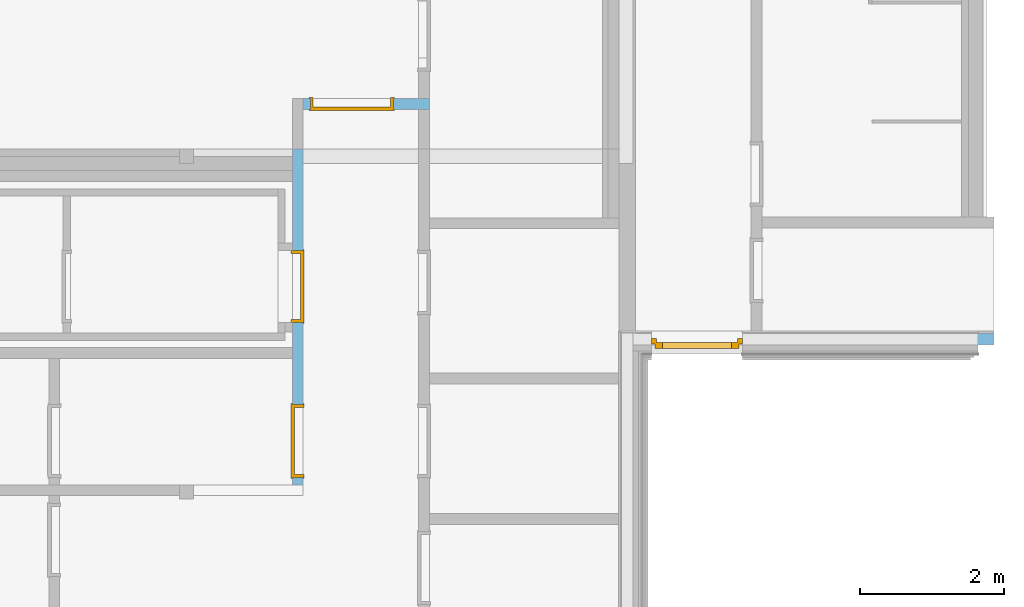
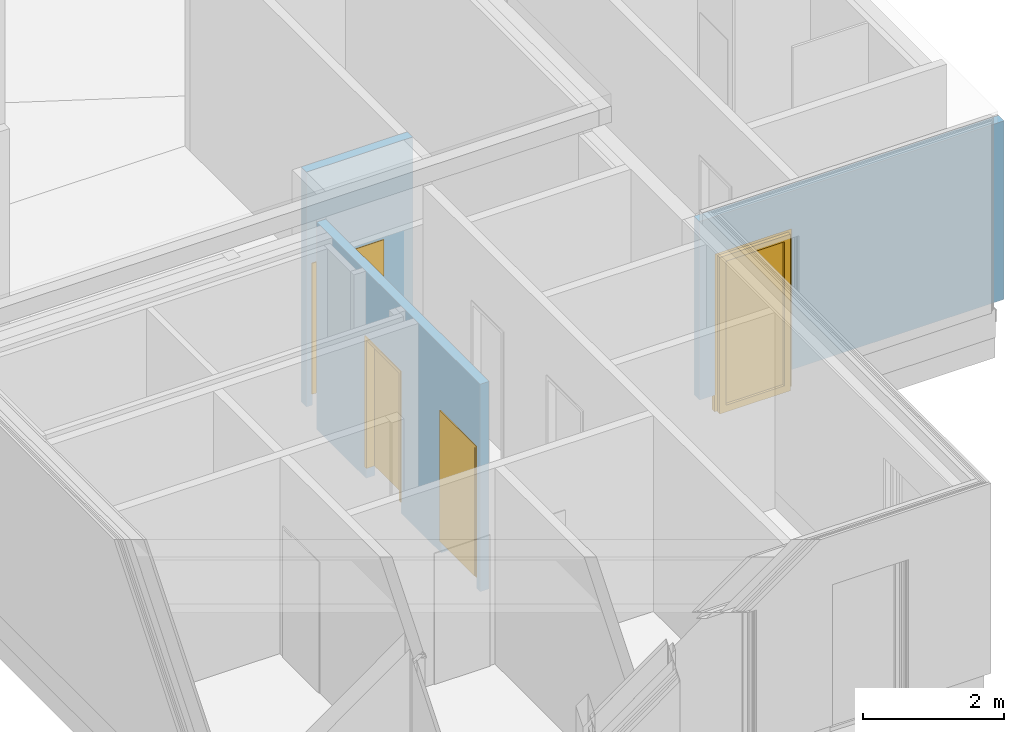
# One storey, part 11 of 23: 4 doors, 4 openings, plus 3 elements that do not belong to this part.
"""IFC4 building model written with IfcOpenShell, lengths in metres."""

from ifc_helpers import new_model, entity, si_unit, converted_unit, derived_unit, frame, frame_2d, origin, origin_with_axes, place, context, subcontext, project, spatial, polyline, rectangle, outline, extrude, closed_shell, open_shell, faceted_brep, surface_model, source, transform, mapped, material, type_object, element, fill, save


model = new_model("IFC4")

# Units and contexts
model_context = context("Model", 3, precision=1e-05, world=origin())
body_context = subcontext(model_context, "Body", "Model", "MODEL_VIEW")
ifc_project = project(units=[si_unit("LENGTHUNIT", "METRE"), si_unit("AREAUNIT", "SQUARE_METRE"), si_unit("VOLUMEUNIT", "CUBIC_METRE"), si_unit("MASSUNIT", "GRAM", prefix="KILO"), converted_unit("PLANEANGLEUNIT", "DEGREE", entity("IfcPlaneAngleMeasure", 0.0174532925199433), si_unit("PLANEANGLEUNIT", "RADIAN"), dimensions=[0, 0, 0, 0, 0, 0, 0]), derived_unit("THERMALTRANSMITTANCEUNIT", [(si_unit("POWERUNIT", "WATT"), 1), (si_unit("THERMODYNAMICTEMPERATUREUNIT", "KELVIN"), -1), (si_unit("LENGTHUNIT", "METRE"), -2)]), derived_unit("VOLUMETRICFLOWRATEUNIT", [(si_unit("LENGTHUNIT", "METRE"), 3), (converted_unit("TIMEUNIT", "hour", entity("IfcTimeMeasure", 3600.0), si_unit("TIMEUNIT", "SECOND"), dimensions=[0, 0, 1, 0, 0, 0, 0]), -1), (si_unit("LENGTHUNIT", "METRE"), -1)])], contexts=[model_context])

# Site, building, storey
site_placement = place(None, origin())
site = spatial("IfcSite", under=ifc_project, at=site_placement, Name="Psychiatrie Neubau Wunstorf", CompositionType="ELEMENT")
building_placement = place(site_placement, origin())
building = spatial("IfcBuilding", under=site, at=building_placement, Name="Neubau H1 Sozialzentrum", CompositionType="ELEMENT")
storey_placement = place(building_placement, frame((0.0, 0.0, 0.7)))
storey = spatial("IfcBuildingStorey", under=building, at=storey_placement, Name="H1 Ebene 0", CompositionType="ELEMENT", Elevation=0.7)

# Wall, opening, door
ifc_material_1 = material(Name="WA-HD")
wall_1_placement = place(storey_placement, frame((0.0299999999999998, 11.9562462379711, 0.3), z_axis=(0.0, 0.0, 1.0), x_axis=(-0.999999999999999, 3.25696625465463e-08, 0.0)))
wall_1 = element("IfcWall", 1, at=wall_1_placement, inside=storey, material=ifc_material_1, context=body_context, shape_type="SweptSolid", body=[
    extrude(rectangle(XDim=5.0005274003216, YDim=0.160000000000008, at=frame_2d((2.5002637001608, 0.080000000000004), x_axis=(1.0, 0.0))), origin_with_axes(), (0.0, 0.0, 1.0), 3.1),
])
opening_1_placement = place(wall_1_placement, frame((4.74452711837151, 0.160000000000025, -0.5), z_axis=(-7.50344497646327e-10, -1.0, 0.0), x_axis=(0.0, 0.0, 1.0)))
opening_1 = element("IfcOpeningElement", 2, at=opening_1_placement, cuts=wall_1, Name="Türöffnung", ObjectType="Opening", context=body_context, shape_type="SweptSolid", body=[
    extrude(outline(polyline([(2.95, 1.26000000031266), (2.95, 0.0), (0.0, 0.0), (0.0, 1.26000000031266), (2.95, 1.26000000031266)])), origin_with_axes(), (0.0, 0.0, 1.0), 0.160000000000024),
])
ifc_material_2 = material(Name="TA-1F-AG-D")
door_type_1 = type_object("IfcDoorType", Name="SMT", OperationType="SINGLE_SWING_RIGHT", ParameterTakesPrecedence=False, PredefinedType="DOOR")
shared_shape_1 = source(origin_with_axes(), body_context, "Body", "SurfaceModel", [
    surface_model("IfcShellBasedSurfaceModel", [(0.0, 0.0799998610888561, 2.95), (0.0, 0.0799998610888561, 0.2), (0.0700000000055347, 0.0799998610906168, 0.2), (0.0700000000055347, 0.0799998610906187, 2.95), (0.0, -1.38911143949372e-07, 0.2), (0.0, -1.38911143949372e-07, 2.95), (0.0700000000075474, -1.3890938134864e-07, 2.95), (0.0700000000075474, -1.38909383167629e-07, 0.2)], [closed_shell([[[0, 1, 2, 3]], [[4, 5, 6, 7]], [[1, 0, 5, 4]], [[2, 1, 4, 7]], [[3, 2, 7, 6]], [[0, 3, 6, 5]]], orient=[[False], [False], [False], [False], [False], [False]])]),
    surface_model("IfcShellBasedSurfaceModel", [(1.19000000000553, 0.0799998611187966, 2.95), (1.19000000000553, 0.0799998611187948, 0.2), (1.26000000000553, 0.0799998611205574, 0.2), (1.26000000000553, 0.0799998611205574, 2.95), (1.19000000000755, -1.38881205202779e-07, 0.2), (1.19000000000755, -1.38881203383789e-07, 2.95), (1.26000000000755, -1.38879442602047e-07, 2.95), (1.26000000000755, -1.38879442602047e-07, 0.2)], [closed_shell([[[0, 1, 2, 3]], [[4, 5, 6, 7]], [[1, 0, 5, 4]], [[2, 1, 4, 7]], [[3, 2, 7, 6]], [[0, 3, 6, 5]]], orient=[[False], [False], [False], [False], [False], [False]])]),
    surface_model("IfcShellBasedSurfaceModel", [(0.0700000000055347, 0.0799998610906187, 2.95), (0.0700000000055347, 0.0799998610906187, 2.88), (1.19000000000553, 0.0799998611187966, 2.88), (1.19000000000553, 0.0799998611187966, 2.95), (0.0700000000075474, -1.3890938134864e-07, 2.88), (0.0700000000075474, -1.3890938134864e-07, 2.95), (1.19000000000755, -1.38881203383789e-07, 2.95), (1.19000000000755, -1.38881203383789e-07, 2.88)], [closed_shell([[[0, 1, 2, 3]], [[4, 5, 6, 7]], [[1, 0, 5, 4]], [[2, 1, 4, 7]], [[3, 2, 7, 6]], [[0, 3, 6, 5]]], orient=[[False], [False], [False], [False], [False], [False]])]),
    surface_model("IfcShellBasedSurfaceModel", [(0.050000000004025, 0.139999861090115, 2.9), (0.050000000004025, 0.139999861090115, 0.18), (0.150000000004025, 0.13999986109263, 0.18), (0.150000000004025, 0.13999986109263, 2.9), (0.0500000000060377, 0.0599998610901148, 0.18), (0.0500000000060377, 0.0599998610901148, 2.9), (0.150000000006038, 0.0599998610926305, 2.9), (0.150000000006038, 0.0599998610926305, 0.18)], [closed_shell([[[0, 1, 2, 3]], [[4, 5, 6, 7]], [[1, 0, 5, 4]], [[2, 1, 4, 7]], [[3, 2, 7, 6]], [[0, 3, 6, 5]]], orient=[[False], [False], [False], [False], [False], [False]])]),
    surface_model("IfcShellBasedSurfaceModel", [(1.11000000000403, 0.139999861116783, 2.9), (1.11000000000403, 0.139999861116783, 0.18), (1.21000000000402, 0.139999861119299, 0.18), (1.21000000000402, 0.139999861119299, 2.9), (1.11000000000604, 0.059999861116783, 0.18), (1.11000000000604, 0.059999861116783, 2.9), (1.21000000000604, 0.0599998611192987, 2.9), (1.21000000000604, 0.0599998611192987, 0.18)], [closed_shell([[[0, 1, 2, 3]], [[4, 5, 6, 7]], [[1, 0, 5, 4]], [[2, 1, 4, 7]], [[3, 2, 7, 6]], [[0, 3, 6, 5]]], orient=[[False], [False], [False], [False], [False], [False]])]),
    surface_model("IfcShellBasedSurfaceModel", [(0.150000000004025, 0.13999986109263, 0.3), (0.150000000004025, 0.13999986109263, 0.18), (1.11000000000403, 0.139999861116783, 0.18), (1.11000000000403, 0.139999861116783, 0.3), (0.150000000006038, 0.0599998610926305, 0.18), (0.150000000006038, 0.0599998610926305, 0.3), (1.11000000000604, 0.059999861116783, 0.3), (1.11000000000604, 0.059999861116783, 0.18)], [closed_shell([[[0, 1, 2, 3]], [[4, 5, 6, 7]], [[1, 0, 5, 4]], [[2, 1, 4, 7]], [[3, 2, 7, 6]], [[0, 3, 6, 5]]], orient=[[False], [False], [False], [False], [False], [False]])]),
    surface_model("IfcShellBasedSurfaceModel", [(0.150000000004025, 0.13999986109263, 2.9), (0.150000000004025, 0.13999986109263, 2.8), (1.11000000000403, 0.139999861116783, 2.8), (1.11000000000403, 0.139999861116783, 2.9), (0.150000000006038, 0.0599998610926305, 2.8), (0.150000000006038, 0.0599998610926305, 2.9), (1.11000000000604, 0.059999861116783, 2.9), (1.11000000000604, 0.059999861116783, 2.8)], [closed_shell([[[0, 1, 2, 3]], [[4, 5, 6, 7]], [[1, 0, 5, 4]], [[2, 1, 4, 7]], [[3, 2, 7, 6]], [[0, 3, 6, 5]]], orient=[[False], [False], [False], [False], [False], [False]])]),
    surface_model("IfcShellBasedSurfaceModel", [(0.150000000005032, 0.0999998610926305, 0.3), (1.11000000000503, 0.099999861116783, 0.3), (1.11000000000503, 0.099999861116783, 2.8), (0.150000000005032, 0.0999998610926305, 2.8)], [open_shell([[[0, 1, 2, 3]]], orient=[[False]])]),
])
door_1_placement = place(opening_1_placement, frame((0.0, 1.26000000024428, 0.0940000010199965), z_axis=(1.0, 0.0, 0.0), x_axis=(0.0, -1.0, -7.27438650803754e-10)))
door_1 = element("IfcDoor", 3, at=door_1_placement, inside=storey, type_object=door_type_1, material=ifc_material_2, Name="SMT", OverallHeight=2.95, OverallWidth=1.26, context=body_context, shape_type="MappedRepresentation", body=[
    mapped(shared_shape_1, transform((0.0, 0.0, 0.0), x_axis=(1.0, 0.0, 0.0), y_axis=(0.0, 1.0, 0.0), z_axis=(0.0, 0.0, 1.0), scale=1.0)),
])
fill(opening_1, door_1)

ifc_material_3 = material(Name="WI-IW")
wall_2_placement = place(storey_placement, frame((-7.79152662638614, 15.212246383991, -0.2), z_axis=(0.0, 0.0, 1.0), x_axis=(-1.0, 0.0, 0.0)))
wall_2 = element("IfcWall", 4, at=wall_2_placement, inside=storey, material=ifc_material_3, context=body_context, shape_type="SweptSolid", body=[
    extrude(rectangle(XDim=1.74813217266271, YDim=0.150000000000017, at=frame_2d((0.874066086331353, 0.0750000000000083), x_axis=(1.0, 0.0))), origin_with_axes(), (0.0, 0.0, 1.0), 4.08),
])
opening_2_placement = place(wall_2_placement, frame((1.64813217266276, 0.15, 0.0), z_axis=(0.0, -1.0, 0.0), x_axis=(0.0, 0.0, 1.0)))
opening_2 = element("IfcOpeningElement", 5, at=opening_2_placement, cuts=wall_2, Name="Türöffnung", ObjectType="Opening", context=body_context, shape_type="SweptSolid", body=[
    extrude(outline(polyline([(2.46, 1.15), (2.46, 0.0), (0.0, 0.0), (0.0, 1.15), (2.46, 1.15)])), origin_with_axes(), (0.0, 0.0, 1.0), 0.15),
])
ifc_material_4 = material(Name="TI-1F-UZ-ZK")
door_type_2 = type_object("IfcDoorType", Name="SMT", OperationType="SINGLE_SWING_RIGHT", ParameterTakesPrecedence=False, PredefinedType="DOOR")
shared_shape_2 = source(origin_with_axes(), body_context, "Body", "Brep", [
    faceted_brep([(1.15, -0.015, 2.46), (1.15, -0.015, 0.2), (1.11, -0.015, 0.2), (1.11, -0.015, 2.46), (1.15, 0.165, 0.2), (1.15, 0.165, 2.46), (1.11, 0.165, 2.46), (1.11, 0.165, 0.2)], [[[0, 1, 2, 3]], [[4, 5, 6, 7]], [[1, 0, 5, 4]], [[2, 1, 4, 7]], [[3, 2, 7, 6]], [[0, 3, 6, 5]]], orient=[[False], [False], [False], [False], [False], [False]]),
    faceted_brep([(1.15, -0.015, 2.475), (1.165, -0.015, 2.475), (1.165, -0.015, 0.2), (1.15, -0.015, 0.2), (1.15, 0.0, 0.2), (1.165, 0.0, 0.2), (1.165, 0.0, 2.475), (1.15, 0.0, 2.475)], [[[0, 1, 2, 3]], [[4, 5, 6, 7]], [[3, 4, 7, 0]], [[2, 5, 4, 3]], [[1, 6, 5, 2]], [[0, 7, 6, 1]]], orient=[[False], [False], [False], [False], [False], [False]]),
    faceted_brep([(1.15, 0.15, 2.475), (1.165, 0.15, 2.475), (1.165, 0.15, 0.2), (1.15, 0.15, 0.2), (1.15, 0.165, 0.2), (1.165, 0.165, 0.2), (1.165, 0.165, 2.475), (1.15, 0.165, 2.475)], [[[0, 1, 2, 3]], [[4, 5, 6, 7]], [[3, 4, 7, 0]], [[2, 5, 4, 3]], [[1, 6, 5, 2]], [[0, 7, 6, 1]]], orient=[[False], [False], [False], [False], [False], [False]]),
    faceted_brep([(0.04, -0.015, 2.46), (0.04, -0.015, 0.2), (0.0, -0.015, 0.2), (0.0, -0.015, 2.46), (0.04, 0.165, 0.2), (0.04, 0.165, 2.46), (0.0, 0.165, 2.46), (0.0, 0.165, 0.2)], [[[0, 1, 2, 3]], [[4, 5, 6, 7]], [[1, 0, 5, 4]], [[2, 1, 4, 7]], [[3, 2, 7, 6]], [[0, 3, 6, 5]]], orient=[[False], [False], [False], [False], [False], [False]]),
    faceted_brep([(0.0, -0.015, 2.475), (0.0, -0.015, 0.2), (-0.015, -0.015, 0.2), (-0.015, -0.015, 2.475), (0.0, 0.0, 0.2), (0.0, 0.0, 2.475), (-0.015, 0.0, 2.475), (-0.015, 0.0, 0.2)], [[[0, 1, 2, 3]], [[4, 5, 6, 7]], [[1, 0, 5, 4]], [[2, 1, 4, 7]], [[3, 2, 7, 6]], [[0, 3, 6, 5]]], orient=[[False], [False], [False], [False], [False], [False]]),
    faceted_brep([(0.0, 0.15, 2.475), (0.0, 0.15, 0.2), (-0.015, 0.15, 0.2), (-0.015, 0.15, 2.475), (0.0, 0.165, 0.2), (0.0, 0.165, 2.475), (-0.015, 0.165, 2.475), (-0.015, 0.165, 0.2)], [[[0, 1, 2, 3]], [[4, 5, 6, 7]], [[1, 0, 5, 4]], [[2, 1, 4, 7]], [[3, 2, 7, 6]], [[0, 3, 6, 5]]], orient=[[False], [False], [False], [False], [False], [False]]),
    faceted_brep([(1.11, -0.015, 2.46), (1.11, -0.015, 2.42), (0.04, -0.015, 2.42), (0.04, -0.015, 2.46), (1.11, 0.165, 2.42), (1.11, 0.165, 2.46), (0.04, 0.165, 2.46), (0.04, 0.165, 2.42)], [[[0, 1, 2, 3]], [[4, 5, 6, 7]], [[1, 0, 5, 4]], [[2, 1, 4, 7]], [[3, 2, 7, 6]], [[0, 3, 6, 5]]], orient=[[False], [False], [False], [False], [False], [False]]),
    faceted_brep([(1.15, -0.015, 2.475), (1.15, -0.015, 2.46), (0.0, -0.015, 2.46), (0.0, -0.015, 2.475), (1.15, 0.0, 2.46), (1.15, 0.0, 2.475), (0.0, 0.0, 2.475), (0.0, 0.0, 2.46)], [[[0, 1, 2, 3]], [[4, 5, 6, 7]], [[1, 0, 5, 4]], [[2, 1, 4, 7]], [[3, 2, 7, 6]], [[0, 3, 6, 5]]], orient=[[False], [False], [False], [False], [False], [False]]),
    faceted_brep([(1.15, 0.15, 2.475), (1.15, 0.15, 2.46), (0.0, 0.15, 2.46), (0.0, 0.15, 2.475), (1.15, 0.165, 2.46), (1.15, 0.165, 2.475), (0.0, 0.165, 2.475), (0.0, 0.165, 2.46)], [[[0, 1, 2, 3]], [[4, 5, 6, 7]], [[1, 0, 5, 4]], [[2, 1, 4, 7]], [[3, 2, 7, 6]], [[0, 3, 6, 5]]], orient=[[False], [False], [False], [False], [False], [False]]),
    faceted_brep([(1.125, 0.116, 2.435), (1.125, 0.116, 0.2), (0.025, 0.116, 0.2), (0.025, 0.116, 2.435), (1.125, 0.166, 0.2), (1.125, 0.166, 2.435), (0.025, 0.166, 2.435), (0.025, 0.166, 0.2)], [[[0, 1, 2, 3]], [[4, 5, 6, 7]], [[1, 0, 5, 4]], [[2, 1, 4, 7]], [[3, 2, 7, 6]], [[0, 3, 6, 5]]], orient=[[False], [False], [False], [False], [False], [False]]),
])
door_2_placement = place(opening_2_placement, frame((0.0, 1.15, 0.15), z_axis=(1.0, 0.0, 0.0), x_axis=(0.0, -1.0, 0.0)))
door_2 = element("IfcDoor", 6, at=door_2_placement, inside=storey, type_object=door_type_2, material=ifc_material_4, Name="SMT", OverallHeight=2.46, OverallWidth=1.15, context=body_context, shape_type="MappedRepresentation", body=[
    mapped(shared_shape_2, transform((0.0, 0.0, 0.0), x_axis=(1.0, 0.0, 0.0), y_axis=(0.0, 1.0, 0.0), z_axis=(0.0, 0.0, 1.0), scale=1.0)),
])
fill(opening_2, door_2)

# Wall, openings, doors
ifc_material_5 = material(Name="WI-IW")
wall_3_placement = place(storey_placement, frame((-9.53965696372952, 9.862392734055, -0.2), z_axis=(0.0, 0.0, 1.0), x_axis=(-3.44036349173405e-07, 0.999999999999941, 0.0)))
wall_3 = element("IfcWall", 7, at=wall_3_placement, inside=storey, material=ifc_material_5, context=body_context, shape_type="SweptSolid", body=[
    extrude(outline(polyline([(0.0, -0.150001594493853), (4.64985352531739, -0.150001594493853), (4.64985357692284, -1.59971864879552e-06), (2.24689248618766, -1.59971864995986e-06), (2.11689246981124, -1.59971865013e-06), (0.0, -1.59971864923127e-06), (0.0, -0.150001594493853)])), frame((0.0, 0.150001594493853, 0.0), z_axis=(0.0, 0.0, 1.0), x_axis=(1.0, 0.0, 0.0)), (0.0, 0.0, 1.0), 3.6),
])
opening_3_placement = place(wall_3_placement, frame((2.24689248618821, 0.0, 0.0), z_axis=(-6.06329822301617e-15, 1.0, 0.0), x_axis=(0.0, 0.0, 1.0)))
opening_3 = element("IfcOpeningElement", 8, at=opening_3_placement, cuts=wall_3, Name="Türöffnung", ObjectType="Opening", context=body_context, shape_type="SweptSolid", body=[
    extrude(outline(polyline([(2.46, 1.00000001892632), (2.46, 0.0), (0.0, 0.0), (0.0, 1.00000001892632), (2.46, 1.00000001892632)])), origin_with_axes(), (0.0, 0.0, 1.0), 0.149999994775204),
])
opening_4_placement = place(wall_3_placement, frame((0.0999999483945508, 0.0, 0.0), z_axis=(5.87382015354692e-15, 1.0, 0.0), x_axis=(0.0, 0.0, 1.0)))
opening_4 = element("IfcOpeningElement", 9, at=opening_4_placement, cuts=wall_3, Name="Türöffnung", ObjectType="Opening", context=body_context, shape_type="SweptSolid", body=[
    extrude(outline(polyline([(2.46, 1.01000000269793), (2.46, 0.0), (0.0, 0.0), (0.0, 1.01000000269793), (2.46, 1.01000000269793)])), origin_with_axes(), (0.0, 0.0, 1.0), 0.149999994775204),
])
ifc_material_6 = material(Name="TI-1F-UZ-ZK")
door_type_3 = type_object("IfcDoorType", Name="SMT", OperationType="SINGLE_SWING_RIGHT", ParameterTakesPrecedence=False, PredefinedType="DOOR")
shared_shape_3 = source(origin_with_axes(), body_context, "Body", "Brep", [
    faceted_brep([(1.0000000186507, -0.0149999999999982, 2.46), (1.0000000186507, -0.0149999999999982, 0.2), (0.960000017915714, -0.0149999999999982, 0.2), (0.960000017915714, -0.0149999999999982, 2.46), (1.0000000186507, 0.164999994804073, 0.2), (1.0000000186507, 0.164999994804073, 2.46), (0.960000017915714, 0.164999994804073, 2.46), (0.960000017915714, 0.164999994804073, 0.2)], [[[0, 1, 2, 3]], [[4, 5, 6, 7]], [[1, 0, 5, 4]], [[2, 1, 4, 7]], [[3, 2, 7, 6]], [[0, 3, 6, 5]]], orient=[[False], [False], [False], [False], [False], [False]]),
    faceted_brep([(1.0000000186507, -0.0149999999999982, 2.475), (1.01500001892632, -0.0149999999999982, 2.475), (1.01500001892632, -0.0149999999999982, 0.2), (1.0000000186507, -0.0149999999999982, 0.2), (1.00000001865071, 0.0, 0.2), (1.01500001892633, 0.0, 0.2), (1.01500001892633, 0.0, 2.475), (1.00000001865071, 0.0, 2.475)], [[[0, 1, 2, 3]], [[4, 5, 6, 7]], [[3, 4, 7, 0]], [[2, 5, 4, 3]], [[1, 6, 5, 2]], [[0, 7, 6, 1]]], orient=[[False], [False], [False], [False], [False], [False]]),
    faceted_brep([(1.00000001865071, 0.149999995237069, 2.475), (1.01500001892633, 0.149999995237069, 2.475), (1.01500001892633, 0.149999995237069, 0.2), (1.00000001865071, 0.149999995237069, 0.2), (1.0000000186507, 0.164999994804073, 0.2), (1.01500001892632, 0.164999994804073, 0.2), (1.01500001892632, 0.164999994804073, 2.475), (1.0000000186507, 0.164999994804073, 2.475)], [[[0, 1, 2, 3]], [[4, 5, 6, 7]], [[3, 4, 7, 0]], [[2, 5, 4, 3]], [[1, 6, 5, 2]], [[0, 7, 6, 1]]], orient=[[False], [False], [False], [False], [False], [False]]),
    faceted_brep([(0.0400000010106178, -0.0149999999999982, 2.46), (0.0400000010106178, -0.0149999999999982, 0.2), (0.0, -0.0149999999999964, 0.2), (0.0, -0.0149999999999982, 2.46), (0.0400000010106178, 0.164999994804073, 0.2), (0.0400000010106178, 0.164999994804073, 2.46), (0.0, 0.164999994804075, 2.46), (0.0, 0.164999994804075, 0.2)], [[[0, 1, 2, 3]], [[4, 5, 6, 7]], [[1, 0, 5, 4]], [[2, 1, 4, 7]], [[3, 2, 7, 6]], [[0, 3, 6, 5]]], orient=[[False], [False], [False], [False], [False], [False]]),
    faceted_brep([(0.0, -0.0149999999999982, 2.475), (0.0, -0.0149999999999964, 0.2), (-0.0149999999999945, -0.0149999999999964, 0.2), (-0.0149999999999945, -0.0149999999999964, 2.475), (0.0, 0.0, 0.2), (0.0, 0.0, 2.475), (-0.0149999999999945, 0.0, 2.475), (-0.0149999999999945, 0.0, 0.2)], [[[0, 1, 2, 3]], [[4, 5, 6, 7]], [[1, 0, 5, 4]], [[2, 1, 4, 7]], [[3, 2, 7, 6]], [[0, 3, 6, 5]]], orient=[[False], [False], [False], [False], [False], [False]]),
    faceted_brep([(0.0, 0.149999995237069, 2.475), (0.0, 0.149999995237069, 0.2), (-0.0149999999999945, 0.149999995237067, 0.2), (-0.0149999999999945, 0.149999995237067, 2.475), (0.0, 0.164999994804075, 0.2), (0.0, 0.164999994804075, 2.475), (-0.0149999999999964, 0.164999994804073, 2.475), (-0.0149999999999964, 0.164999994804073, 0.2)], [[[0, 1, 2, 3]], [[4, 5, 6, 7]], [[1, 0, 5, 4]], [[2, 1, 4, 7]], [[3, 2, 7, 6]], [[0, 3, 6, 5]]], orient=[[False], [False], [False], [False], [False], [False]]),
    faceted_brep([(0.960000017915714, -0.0149999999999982, 2.46), (0.960000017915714, -0.0149999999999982, 2.42), (0.0400000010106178, -0.0149999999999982, 2.42), (0.0400000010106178, -0.0149999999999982, 2.46), (0.960000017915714, 0.164999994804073, 2.42), (0.960000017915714, 0.164999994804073, 2.46), (0.0400000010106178, 0.164999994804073, 2.46), (0.0400000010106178, 0.164999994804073, 2.42)], [[[0, 1, 2, 3]], [[4, 5, 6, 7]], [[1, 0, 5, 4]], [[2, 1, 4, 7]], [[3, 2, 7, 6]], [[0, 3, 6, 5]]], orient=[[False], [False], [False], [False], [False], [False]]),
    faceted_brep([(1.0000000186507, -0.0149999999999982, 2.475), (1.0000000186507, -0.0149999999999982, 2.46), (0.0, -0.0149999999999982, 2.46), (0.0, -0.0149999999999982, 2.475), (1.00000001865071, 0.0, 2.46), (1.00000001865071, 0.0, 2.475), (0.0, 0.0, 2.475), (0.0, 0.0, 2.46)], [[[0, 1, 2, 3]], [[4, 5, 6, 7]], [[1, 0, 5, 4]], [[2, 1, 4, 7]], [[3, 2, 7, 6]], [[0, 3, 6, 5]]], orient=[[False], [False], [False], [False], [False], [False]]),
    faceted_brep([(1.00000001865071, 0.149999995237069, 2.475), (1.00000001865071, 0.149999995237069, 2.46), (0.0, 0.149999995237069, 2.46), (0.0, 0.149999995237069, 2.475), (1.0000000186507, 0.164999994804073, 2.46), (1.0000000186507, 0.164999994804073, 2.475), (0.0, 0.164999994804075, 2.475), (0.0, 0.164999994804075, 2.46)], [[[0, 1, 2, 3]], [[4, 5, 6, 7]], [[1, 0, 5, 4]], [[2, 1, 4, 7]], [[3, 2, 7, 6]], [[0, 3, 6, 5]]], orient=[[False], [False], [False], [False], [False], [False]]),
    faceted_brep([(0.975000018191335, 0.115999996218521, 2.435), (0.975000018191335, 0.115999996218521, 0.2), (0.0250000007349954, 0.115999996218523, 0.2), (0.0250000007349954, 0.115999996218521, 2.435), (0.975000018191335, 0.165999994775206, 0.2), (0.975000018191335, 0.165999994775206, 2.435), (0.0250000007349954, 0.165999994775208, 2.435), (0.0250000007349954, 0.165999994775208, 0.2)], [[[0, 1, 2, 3]], [[4, 5, 6, 7]], [[1, 0, 5, 4]], [[2, 1, 4, 7]], [[3, 2, 7, 6]], [[0, 3, 6, 5]]], orient=[[False], [False], [False], [False], [False], [False]]),
])
door_3_placement = place(opening_3_placement, frame((0.0, 1.00000001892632, 0.149999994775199), z_axis=(1.0, 0.0, 0.0), x_axis=(0.0, -1.0, 5.56585810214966e-15)))
door_3 = element("IfcDoor", 10, at=door_3_placement, inside=storey, type_object=door_type_3, material=ifc_material_6, Name="SMT", OverallHeight=2.46, OverallWidth=1.0, context=body_context, shape_type="MappedRepresentation", body=[
    mapped(shared_shape_3, transform((0.0, 0.0, 0.0), x_axis=(1.0, 0.0, 0.0), y_axis=(0.0, 1.0, 0.0), z_axis=(0.0, 0.0, 1.0), scale=1.0)),
])
fill(opening_3, door_3)
ifc_material_7 = material(Name="TI-1F-UZ-ZK")
door_type_4 = type_object("IfcDoorType", Name="SMT", OperationType="SINGLE_SWING_RIGHT", ParameterTakesPrecedence=False, PredefinedType="DOOR")
shared_shape_4 = source(origin_with_axes(), body_context, "Body", "Brep", [
    faceted_brep([(0.0, -0.0150000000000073, 2.46), (0.0400000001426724, -0.0150000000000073, 2.46), (0.0400000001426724, -0.0150000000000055, 0.2), (0.0, -0.0150000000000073, 0.2), (0.0, 0.164999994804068, 0.2), (0.0400000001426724, 0.164999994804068, 0.2), (0.0400000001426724, 0.164999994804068, 2.46), (0.0, 0.164999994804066, 2.46)], [[[0, 1, 2, 3]], [[4, 5, 6, 7]], [[3, 4, 7, 0]], [[2, 5, 4, 3]], [[1, 6, 5, 2]], [[0, 7, 6, 1]]], orient=[[False], [False], [False], [False], [False], [False]]),
    faceted_brep([(0.0, -0.0150000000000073, 2.475), (0.0, -0.0150000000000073, 0.2), (-0.0150000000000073, -0.0150000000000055, 0.2), (-0.0150000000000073, -0.0150000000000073, 2.475), (0.0, 0.0, 0.2), (0.0, 0.0, 2.475), (-0.0150000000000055, 0.0, 2.475), (-0.0150000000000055, 0.0, 0.2)], [[[0, 1, 2, 3]], [[4, 5, 6, 7]], [[1, 0, 5, 4]], [[2, 1, 4, 7]], [[3, 2, 7, 6]], [[0, 3, 6, 5]]], orient=[[False], [False], [False], [False], [False], [False]]),
    faceted_brep([(0.0, 0.149999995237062, 2.475), (0.0, 0.149999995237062, 0.2), (-0.0150000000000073, 0.149999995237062, 0.2), (-0.0150000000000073, 0.149999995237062, 2.475), (0.0, 0.164999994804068, 0.2), (0.0, 0.164999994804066, 2.475), (-0.0150000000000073, 0.164999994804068, 2.475), (-0.0150000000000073, 0.164999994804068, 0.2)], [[[0, 1, 2, 3]], [[4, 5, 6, 7]], [[1, 0, 5, 4]], [[2, 1, 4, 7]], [[3, 2, 7, 6]], [[0, 3, 6, 5]]], orient=[[False], [False], [False], [False], [False], [False]]),
    faceted_brep([(0.970000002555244, -0.0150000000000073, 2.46), (1.01000000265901, -0.0150000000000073, 2.46), (1.01000000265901, -0.0150000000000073, 0.2), (0.970000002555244, -0.0150000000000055, 0.2), (0.970000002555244, 0.164999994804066, 0.2), (1.01000000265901, 0.164999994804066, 0.2), (1.01000000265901, 0.164999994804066, 2.46), (0.970000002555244, 0.164999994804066, 2.46)], [[[0, 1, 2, 3]], [[4, 5, 6, 7]], [[3, 4, 7, 0]], [[2, 5, 4, 3]], [[1, 6, 5, 2]], [[0, 7, 6, 1]]], orient=[[False], [False], [False], [False], [False], [False]]),
    faceted_brep([(1.01000000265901, -0.0150000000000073, 2.475), (1.02500000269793, -0.0150000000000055, 2.475), (1.02500000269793, -0.0150000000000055, 0.2), (1.01000000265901, -0.0150000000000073, 0.2), (1.01000000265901, 0.0, 0.2), (1.02500000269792, 0.0, 0.2), (1.02500000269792, 0.0, 2.475), (1.01000000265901, 0.0, 2.475)], [[[0, 1, 2, 3]], [[4, 5, 6, 7]], [[3, 4, 7, 0]], [[2, 5, 4, 3]], [[1, 6, 5, 2]], [[0, 7, 6, 1]]], orient=[[False], [False], [False], [False], [False], [False]]),
    faceted_brep([(1.01000000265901, 0.14999999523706, 2.475), (1.02500000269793, 0.14999999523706, 2.475), (1.02500000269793, 0.14999999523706, 0.2), (1.01000000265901, 0.149999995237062, 0.2), (1.01000000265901, 0.164999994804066, 0.2), (1.02500000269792, 0.164999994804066, 0.2), (1.02500000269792, 0.164999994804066, 2.475), (1.01000000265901, 0.164999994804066, 2.475)], [[[0, 1, 2, 3]], [[4, 5, 6, 7]], [[3, 4, 7, 0]], [[2, 5, 4, 3]], [[1, 6, 5, 2]], [[0, 7, 6, 1]]], orient=[[False], [False], [False], [False], [False], [False]]),
    faceted_brep([(0.0400000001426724, -0.0150000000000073, 2.46), (0.970000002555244, -0.0150000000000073, 2.46), (0.970000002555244, -0.0150000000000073, 2.42), (0.0400000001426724, -0.0150000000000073, 2.42), (0.0400000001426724, 0.164999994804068, 2.42), (0.970000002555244, 0.164999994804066, 2.42), (0.970000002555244, 0.164999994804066, 2.46), (0.0400000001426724, 0.164999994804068, 2.46)], [[[0, 1, 2, 3]], [[4, 5, 6, 7]], [[3, 4, 7, 0]], [[2, 5, 4, 3]], [[1, 6, 5, 2]], [[0, 7, 6, 1]]], orient=[[False], [False], [False], [False], [False], [False]]),
    faceted_brep([(0.0, -0.0150000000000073, 2.475), (1.01000000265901, -0.0150000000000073, 2.475), (1.01000000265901, -0.0150000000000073, 2.46), (0.0, -0.0150000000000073, 2.46), (0.0, 0.0, 2.46), (1.01000000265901, 0.0, 2.46), (1.01000000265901, 0.0, 2.475), (0.0, 0.0, 2.475)], [[[0, 1, 2, 3]], [[4, 5, 6, 7]], [[3, 4, 7, 0]], [[2, 5, 4, 3]], [[1, 6, 5, 2]], [[0, 7, 6, 1]]], orient=[[False], [False], [False], [False], [False], [False]]),
    faceted_brep([(0.0, 0.149999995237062, 2.475), (1.01000000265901, 0.14999999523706, 2.475), (1.01000000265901, 0.14999999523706, 2.46), (0.0, 0.149999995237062, 2.46), (0.0, 0.164999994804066, 2.46), (1.01000000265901, 0.164999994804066, 2.46), (1.01000000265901, 0.164999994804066, 2.475), (0.0, 0.164999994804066, 2.475)], [[[0, 1, 2, 3]], [[4, 5, 6, 7]], [[3, 4, 7, 0]], [[2, 5, 4, 3]], [[1, 6, 5, 2]], [[0, 7, 6, 1]]], orient=[[False], [False], [False], [False], [False], [False]]),
    faceted_brep([(0.0250000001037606, 0.115999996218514, 2.435), (0.985000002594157, 0.115999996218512, 2.435), (0.985000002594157, 0.115999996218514, 0.2), (0.0250000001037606, 0.115999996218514, 0.2), (0.0250000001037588, 0.165999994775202, 0.2), (0.985000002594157, 0.1659999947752, 0.2), (0.985000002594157, 0.1659999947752, 2.435), (0.0250000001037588, 0.165999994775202, 2.435)], [[[0, 1, 2, 3]], [[4, 5, 6, 7]], [[3, 4, 7, 0]], [[2, 5, 4, 3]], [[1, 6, 5, 2]], [[0, 7, 6, 1]]], orient=[[False], [False], [False], [False], [False], [False]]),
])
door_4_placement = place(opening_4_placement, frame((0.0, 0.0, 0.0), z_axis=(1.0, 0.0, 0.0), x_axis=(0.0, 1.0, 4.99381646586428e-15)))
door_4 = element("IfcDoor", 11, at=door_4_placement, inside=storey, type_object=door_type_4, material=ifc_material_7, Name="SMT", OverallHeight=2.46, OverallWidth=1.01, context=body_context, shape_type="MappedRepresentation", body=[
    mapped(shared_shape_4, transform((0.0, 0.0, 0.0), x_axis=(1.0, 0.0, 0.0), y_axis=(0.0, 1.0, 0.0), z_axis=(0.0, 0.0, 1.0), scale=1.0)),
])
fill(opening_4, door_4)

save(model, "model.ifc")
